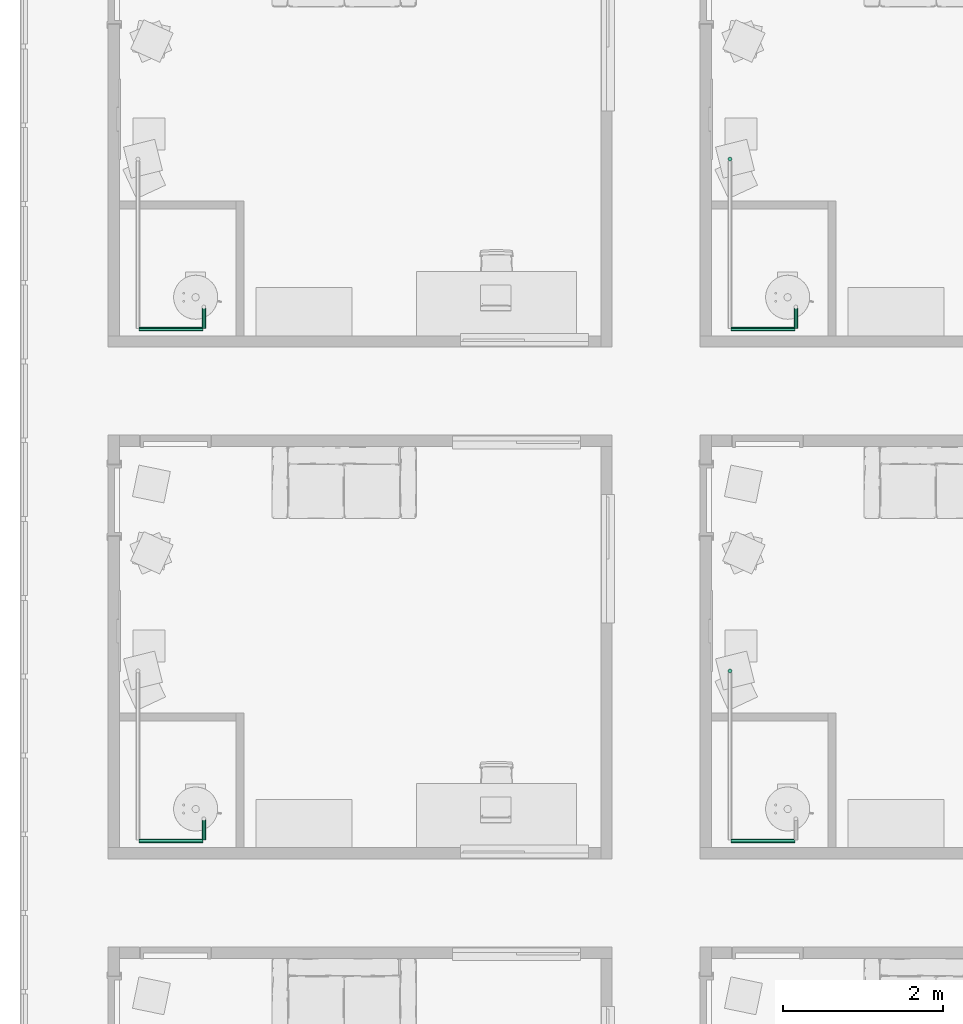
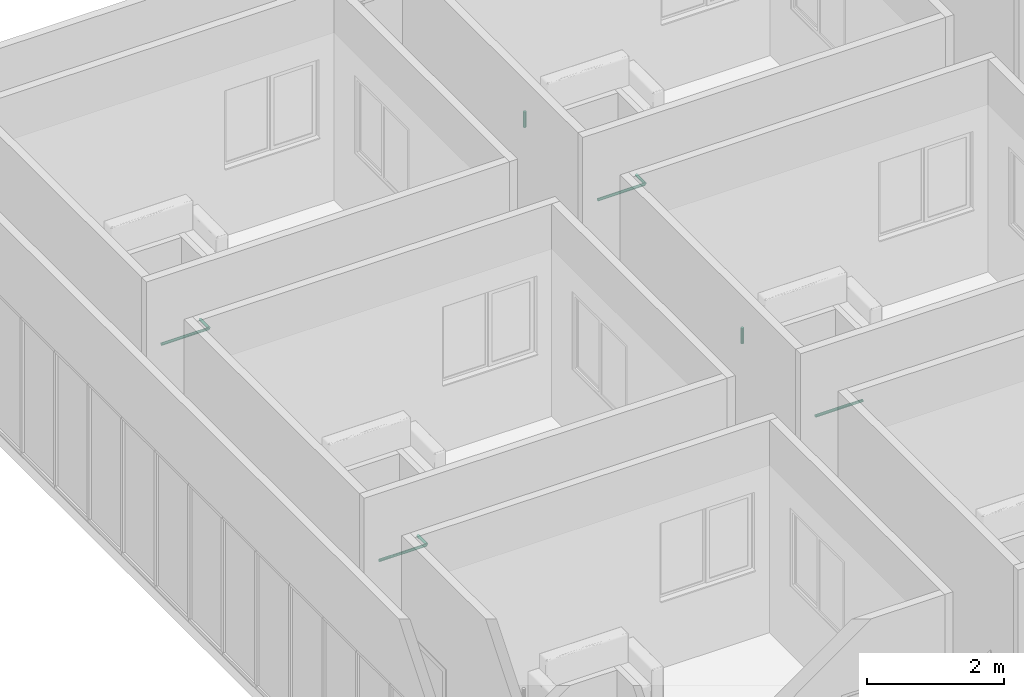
# One storey, part 45 of 69: 9 pipe segments.
"""IFC4 building model written with IfcOpenShell, lengths in centimetres."""

from ifc_helpers import new_model, entity, si_unit, converted_unit, derived_unit, direction, frame, origin, place, context, subcontext, project, spatial, arc, indexed_curve, outline, extrude, type_object, element, save


model = new_model("IFC4")

# Units and contexts
model_context = context("Model", 3, precision=0.001, world=origin(), true_north=direction((6.123233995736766e-17, 1.0)))
body_context = subcontext(model_context, "Body", "Model", "MODEL_VIEW")
ifc_project = project(units=[si_unit("LENGTHUNIT", "METRE", prefix="CENTI"), si_unit("AREAUNIT", "SQUARE_METRE"), si_unit("VOLUMEUNIT", "CUBIC_METRE"), derived_unit("THERMALTRANSMITTANCEUNIT", [(si_unit("MASSUNIT", "GRAM", prefix="KILO"), 1), (si_unit("THERMODYNAMICTEMPERATUREUNIT", "KELVIN"), -1), (si_unit("TIMEUNIT", "SECOND"), -3)]), converted_unit("PLANEANGLEUNIT", "DEGREE", entity("IfcPlaneAngleMeasure", 0.017453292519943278), si_unit("PLANEANGLEUNIT", "RADIAN"), dimensions=[0, 0, 0, 0, 0, 0, 0]), derived_unit("MASSDENSITYUNIT", [(si_unit("MASSUNIT", "GRAM", prefix="KILO"), 1), (si_unit("LENGTHUNIT", "METRE"), -3)]), derived_unit("VAPORPERMEABILITYUNIT", [(si_unit("LENGTHUNIT", "METRE"), -1), (si_unit("TIMEUNIT", "SECOND"), 1)]), derived_unit("USERDEFINED", [(si_unit("MASSUNIT", "GRAM", prefix="KILO"), 1), (si_unit("TIMEUNIT", "SECOND"), -3), (si_unit("LENGTHUNIT", "METRE"), 3), (si_unit("ELECTRICCURRENTUNIT", "AMPERE"), -2)]), derived_unit("SPECIFICHEATCAPACITYUNIT", [(si_unit("THERMODYNAMICTEMPERATUREUNIT", "KELVIN"), -1), (si_unit("LENGTHUNIT", "METRE"), 2), (si_unit("TIMEUNIT", "SECOND"), -2)]), derived_unit("THERMALCONDUCTANCEUNIT", [(si_unit("MASSUNIT", "GRAM", prefix="KILO"), 1), (si_unit("THERMODYNAMICTEMPERATUREUNIT", "KELVIN"), -1), (si_unit("TIMEUNIT", "SECOND"), -3), (si_unit("LENGTHUNIT", "METRE"), 1)]), si_unit("PRESSUREUNIT", "PASCAL"), derived_unit("MODULUSOFELASTICITYUNIT", [(si_unit("MASSUNIT", "GRAM", prefix="KILO"), 1), (si_unit("LENGTHUNIT", "METRE"), -1), (si_unit("TIMEUNIT", "SECOND"), -2)]), derived_unit("THERMALEXPANSIONCOEFFICIENTUNIT", [(si_unit("THERMODYNAMICTEMPERATUREUNIT", "KELVIN"), -1)])], contexts=[model_context])

# Site, building, storey
site_placement = place(None, origin())
site = spatial("IfcSite", under=ifc_project, at=site_placement, Name="Default", CompositionType="ELEMENT")
building_placement = place(site_placement, origin())
building = spatial("IfcBuilding", under=site, at=building_placement, Name="IDS Escape Game Building", CompositionType="ELEMENT")
storey_placement = place(building_placement, origin())
storey = spatial("IfcBuildingStorey", under=building, at=storey_placement, Name="00_Ground Floor", CompositionType="ELEMENT", Elevation=0.0)

# Pipe segments
pipe_segment_type = type_object("IfcPipeSegmentType", Name="Pipe Types:Piping Aluminum", PredefinedType="NOTDEFINED")
pipe_segment_1_placement = place(storey_placement, origin())
element("IfcPipeSegment", 1, at=pipe_segment_1_placement, inside=storey, type_object=pipe_segment_type, Name="Pipe Types:Piping Aluminum", ObjectType="Pipe Types:Piping Aluminum", PredefinedType="NOTDEFINED", context=body_context, shape_type="SweptSolid", body=[
    extrude(outline(indexed_curve([(2.412999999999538, -2.165734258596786e-13), (1.7062486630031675, 1.7062486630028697), (4.331468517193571e-13, 2.4130000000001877), (-1.706248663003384, 1.7062486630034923), (-2.4130000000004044, -1.6243006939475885e-13), (-1.7062486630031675, -1.706248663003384), (4.3314685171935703e-13, -2.412999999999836), (1.7062486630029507, -1.7062486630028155)], segments=[arc(1, 2, 3), arc(3, 4, 5), arc(5, 6, 7), arc(7, 8, 1)], self_intersect=False)), frame((31.14671687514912, 1935.2648279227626, 242.0), z_axis=(1.0, 0.0, 0.0), x_axis=(0.0, 1.0, 0.0)), (0.0, 0.0, 1.0), 79.9032831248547),
])
pipe_segment_2_placement = place(storey_placement, origin())
element("IfcPipeSegment", 2, at=pipe_segment_2_placement, inside=storey, type_object=pipe_segment_type, Name="Pipe Types:Piping Aluminum", ObjectType="Pipe Types:Piping Aluminum", PredefinedType="NOTDEFINED", context=body_context, shape_type="SweptSolid", body=[
    extrude(outline(indexed_curve([(2.412999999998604, -2.7071678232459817e-14), (1.7062486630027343, 1.7062486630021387), (1.3941914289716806e-12, 2.412999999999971), (-1.7062486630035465, 1.7062486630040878), (-2.4130000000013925, -2.7071678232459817e-14), (-1.70624866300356, -1.706248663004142), (1.3806555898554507e-12, -2.413000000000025), (1.7062486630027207, -1.706248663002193)], segments=[arc(1, 2, 3), arc(3, 4, 5), arc(5, 6, 7), arc(7, 8, 1)], self_intersect=False)), frame((112.15000000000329, 1936.3648279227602, 242.0), z_axis=(0.0, 1.0, 0.0), x_axis=(-1.0, 0.0, 0.0)), (0.0, 0.0, 1.0), 25.43517207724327),
])
pipe_segment_3_placement = place(storey_placement, origin())
element("IfcPipeSegment", 3, at=pipe_segment_3_placement, inside=storey, type_object=pipe_segment_type, Name="Pipe Types:Piping Aluminum", ObjectType="Pipe Types:Piping Aluminum", PredefinedType="NOTDEFINED", context=body_context, shape_type="SweptSolid", body=[
    extrude(outline(indexed_curve([(2.412999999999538, -2.165734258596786e-13), (1.7062486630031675, 1.7062486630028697), (4.331468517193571e-13, 2.4130000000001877), (-1.706248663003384, 1.7062486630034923), (-2.4130000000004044, -1.6243006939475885e-13), (-1.7062486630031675, -1.706248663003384), (4.3314685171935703e-13, -2.412999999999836), (1.7062486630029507, -1.7062486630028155)], segments=[arc(1, 2, 3), arc(3, 4, 5), arc(5, 6, 7), arc(7, 8, 1)], self_intersect=False)), frame((769.1467168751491, 1935.26482792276, 242.0), z_axis=(1.0, 0.0, 0.0), x_axis=(0.0, 1.0, 0.0)), (0.0, 0.0, 1.0), 79.90328312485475),
])
pipe_segment_4_placement = place(storey_placement, origin())
element("IfcPipeSegment", 4, at=pipe_segment_4_placement, inside=storey, type_object=pipe_segment_type, Name="Pipe Types:Piping Aluminum", ObjectType="Pipe Types:Piping Aluminum", PredefinedType="NOTDEFINED", context=body_context, shape_type="SweptSolid", body=[
    extrude(outline(indexed_curve([(2.412999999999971, 0.0), (1.7062486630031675, 1.7062486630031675), (0.0, 2.412999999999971), (-1.7062486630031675, 1.7062486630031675), (-2.412999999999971, 0.0), (-1.7062486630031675, -1.7062486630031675), (0.0, -2.412999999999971), (1.7062486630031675, -1.7062486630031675)], segments=[arc(1, 2, 3), arc(3, 4, 5), arc(5, 6, 7), arc(7, 8, 1)], self_intersect=False)), frame((768.0467168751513, 2147.264827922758, 244.0999999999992), z_axis=(0.0, 0.0, 1.0), x_axis=(-1.0, 0.0, 0.0)), (0.0, 0.0, 1.0), 27.90000000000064),
])
pipe_segment_5_placement = place(storey_placement, origin())
element("IfcPipeSegment", 5, at=pipe_segment_5_placement, inside=storey, type_object=pipe_segment_type, Name="Pipe Types:Piping Aluminum", ObjectType="Pipe Types:Piping Aluminum", PredefinedType="NOTDEFINED", context=body_context, shape_type="SweptSolid", body=[
    extrude(outline(indexed_curve([(2.412999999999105, -2.165734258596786e-13), (1.7062486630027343, 1.7062486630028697), (3.6842275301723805e-29, 2.4130000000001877), (-1.7062486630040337, 1.7062486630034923), (-2.4130000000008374, -1.6243006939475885e-13), (-1.7062486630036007, -1.706248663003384), (-3.684227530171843e-29, -2.412999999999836), (1.706248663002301, -1.7062486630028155)], segments=[arc(1, 2, 3), arc(3, 4, 5), arc(5, 6, 7), arc(7, 8, 1)], self_intersect=False)), frame((31.14671687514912, 2573.264827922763, 242.0), z_axis=(1.0, 0.0, 0.0), x_axis=(0.0, 1.0, 0.0)), (0.0, 0.0, 1.0), 79.9032831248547),
])
pipe_segment_6_placement = place(storey_placement, origin())
element("IfcPipeSegment", 6, at=pipe_segment_6_placement, inside=storey, type_object=pipe_segment_type, Name="Pipe Types:Piping Aluminum", ObjectType="Pipe Types:Piping Aluminum", PredefinedType="NOTDEFINED", context=body_context, shape_type="SweptSolid", body=[
    extrude(outline(indexed_curve([(2.412999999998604, -2.7071678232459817e-14), (1.7062486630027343, 1.7062486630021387), (1.3941914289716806e-12, 2.412999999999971), (-1.7062486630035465, 1.7062486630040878), (-2.4130000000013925, -2.7071678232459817e-14), (-1.70624866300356, -1.706248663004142), (1.3806555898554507e-12, -2.413000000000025), (1.7062486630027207, -1.706248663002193)], segments=[arc(1, 2, 3), arc(3, 4, 5), arc(5, 6, 7), arc(7, 8, 1)], self_intersect=False)), frame((112.15000000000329, 2574.3648279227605, 242.0), z_axis=(0.0, 1.0, 0.0), x_axis=(-1.0, 0.0, 0.0)), (0.0, 0.0, 1.0), 25.43517207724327),
])
pipe_segment_7_placement = place(storey_placement, origin())
element("IfcPipeSegment", 7, at=pipe_segment_7_placement, inside=storey, type_object=pipe_segment_type, Name="Pipe Types:Piping Aluminum", ObjectType="Pipe Types:Piping Aluminum", PredefinedType="NOTDEFINED", context=body_context, shape_type="SweptSolid", body=[
    extrude(outline(indexed_curve([(2.412999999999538, -2.165734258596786e-13), (1.7062486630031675, 1.7062486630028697), (4.331468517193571e-13, 2.4130000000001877), (-1.7062486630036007, 1.7062486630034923), (-2.4130000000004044, -1.6243006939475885e-13), (-1.7062486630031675, -1.706248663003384), (4.3314685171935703e-13, -2.412999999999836), (1.7062486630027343, -1.7062486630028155)], segments=[arc(1, 2, 3), arc(3, 4, 5), arc(5, 6, 7), arc(7, 8, 1)], self_intersect=False)), frame((769.1467168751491, 2573.26482792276, 242.0), z_axis=(1.0, 0.0, 0.0), x_axis=(0.0, 1.0, 0.0)), (0.0, 0.0, 1.0), 79.90328312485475),
])
pipe_segment_8_placement = place(storey_placement, origin())
element("IfcPipeSegment", 8, at=pipe_segment_8_placement, inside=storey, type_object=pipe_segment_type, Name="Pipe Types:Piping Aluminum", ObjectType="Pipe Types:Piping Aluminum", PredefinedType="NOTDEFINED", context=body_context, shape_type="SweptSolid", body=[
    extrude(outline(indexed_curve([(2.4129999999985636, -2.7071678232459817e-14), (1.7062486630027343, 1.7062486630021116), (1.4077272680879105e-12, 2.412999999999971), (-1.7062486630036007, 1.706248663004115), (-2.4130000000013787, -2.7071678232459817e-14), (-1.7062486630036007, -1.706248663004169), (1.4077272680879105e-12, -2.413000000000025), (1.7062486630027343, -1.706248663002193)], segments=[arc(1, 2, 3), arc(3, 4, 5), arc(5, 6, 7), arc(7, 8, 1)], self_intersect=False)), frame((850.1500000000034, 2574.3648279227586, 242.0), z_axis=(0.0, 1.0, 0.0), x_axis=(-1.0, 0.0, 0.0)), (0.0, 0.0, 1.0), 25.43517207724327),
])
pipe_segment_9_placement = place(storey_placement, origin())
element("IfcPipeSegment", 9, at=pipe_segment_9_placement, inside=storey, type_object=pipe_segment_type, Name="Pipe Types:Piping Aluminum", ObjectType="Pipe Types:Piping Aluminum", PredefinedType="NOTDEFINED", context=body_context, shape_type="SweptSolid", body=[
    extrude(outline(indexed_curve([(2.412999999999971, 4.331468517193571e-13), (1.7062486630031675, 1.7062486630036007), (0.0, 2.4130000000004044), (-1.7062486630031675, 1.7062486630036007), (-2.412999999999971, 4.331468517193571e-13), (-1.7062486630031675, -1.7062486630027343), (0.0, -2.412999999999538), (1.7062486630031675, -1.7062486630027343)], segments=[arc(1, 2, 3), arc(3, 4, 5), arc(5, 6, 7), arc(7, 8, 1)], self_intersect=False)), frame((768.0467168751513, 2785.2648279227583, 244.0999999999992), z_axis=(0.0, 0.0, 1.0), x_axis=(-1.0, 0.0, 0.0)), (0.0, 0.0, 1.0), 27.90000000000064),
])

save(model, "model.ifc")
